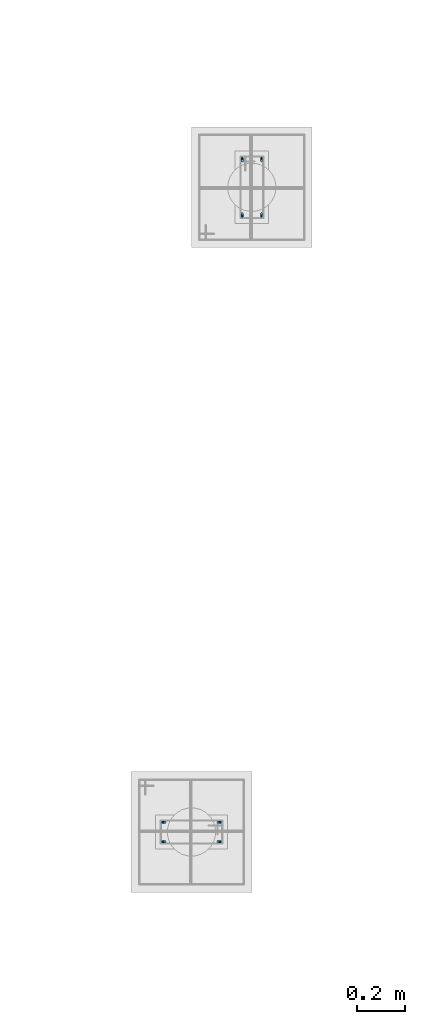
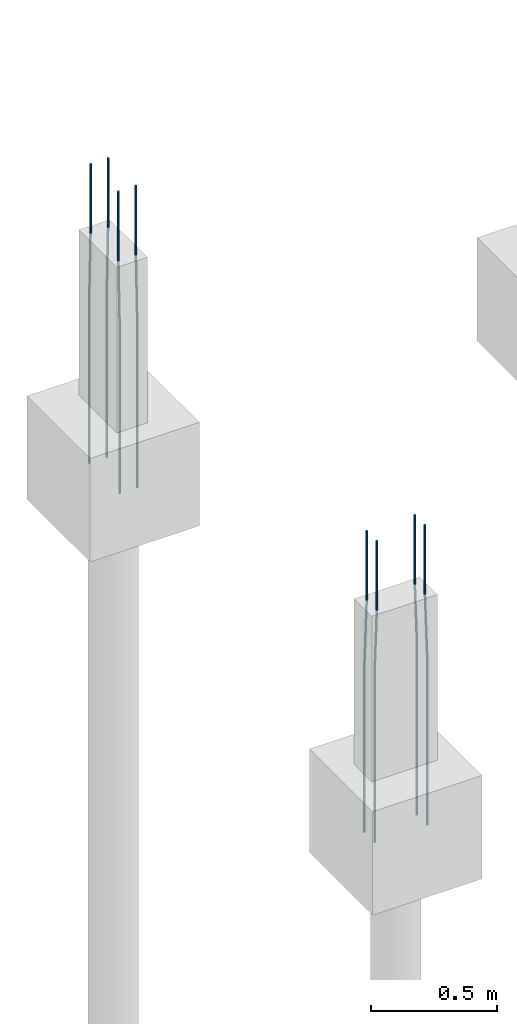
# One storey, part 56 of 119: 8 reinforcing bars.
"""IFC4 building model written with IfcOpenShell, lengths in centimetres."""

import ifcopenshell
import ifcopenshell.guid

model = None  # the IFC model being written
_history = None  # IfcOwnerHistory: only IFC2X3 demands one
_inside = {}  # id of a spatial element -> (the spatial element, [elements in it])
_under = {}  # id of a project, library or spatial element -> (it, [spatial elements below it])
_declared = {}  # id of a project -> (the project, [libraries it declares])
_typed = {}  # id of a type object -> (the type object, [elements of that type])
_made_of = {}  # id of a material, layer set ... -> (it, [elements and type objects made of it])


def new_model(schema):
    """Start an empty IFC model of exactly this schema.

    Asked for "IFC4X3", IfcOpenShell would pick the latest addendum, in which some entities
    have other attributes; the version numbers below select the first issue.
    IFC2X3 requires an IfcOwnerHistory on every rooted entity: one is made here for all.
    """
    global model, _history
    if schema == "IFC4X3":
        model = ifcopenshell.file(schema_version=(4, 3, 0, 0))
    else:
        model = ifcopenshell.file(schema=schema)
    _inside.clear()
    _under.clear()
    _declared.clear()
    _typed.clear()
    _made_of.clear()
    _history = None
    if model.schema == "IFC2X3":
        org = make("IfcOrganization", Name="unknown")
        user = make(
            "IfcPersonAndOrganization",
            ThePerson=make("IfcPerson", FamilyName="unknown"),
            TheOrganization=org,
        )
        app = make(
            "IfcApplication",
            ApplicationDeveloper=org,
            Version="unknown",
            ApplicationFullName="unknown",
            ApplicationIdentifier="unknown",
        )
        _history = make(
            "IfcOwnerHistory",
            OwningUser=user,
            OwningApplication=app,
            ChangeAction="ADDED",
            CreationDate=0,
        )
    return model


def make(cls, **values):
    """One entity of the class cls with the attributes given. An attribute that is None is left unset."""
    return model.create_entity(
        cls, **{name: value for name, value in values.items() if value is not None}
    )


def entity(cls, *values):
    """Any entity or typed value of the class cls, its attributes in the order of the schema. None: left unset."""
    e = model.create_entity(cls)
    for i, value in enumerate(values):
        if value is not None:
            e[i] = value
    return e


def rooted(cls, **values):
    """An entity with a GlobalId (a new one), such as an element, a storey or a relation."""
    return make(cls, GlobalId=ifcopenshell.guid.new(), OwnerHistory=_history, **values)


def si_unit(unit_type, name, prefix=None):
    """IfcSIUnit, for example si_unit("LENGTHUNIT", "METRE", prefix="MILLI")."""
    return make("IfcSIUnit", UnitType=unit_type, Prefix=prefix, Name=name)


def derived_unit(unit_type, elements):
    """IfcDerivedUnit: a product of units, each with its exponent."""
    return make(
        "IfcDerivedUnit",
        Elements=[
            make("IfcDerivedUnitElement", Unit=unit, Exponent=power)
            for unit, power in elements
        ],
        UnitType=unit_type,
    )


def assignment(units):
    """IfcUnitAssignment: the units of a project."""
    return None if units is None else make("IfcUnitAssignment", Units=units)


def point(xyz):
    """IfcCartesianPoint."""
    return None if xyz is None else make("IfcCartesianPoint", Coordinates=xyz)


def direction(xyz):
    """IfcDirection."""
    return None if xyz is None else make("IfcDirection", DirectionRatios=xyz)


def frame(location, z_axis=None, x_axis=None):
    """IfcAxis2Placement3D, a coordinate frame: its origin and axes. An axis left out is left unset."""
    return make(
        "IfcAxis2Placement3D",
        Location=point(location),
        Axis=direction(z_axis),
        RefDirection=direction(x_axis),
    )


def origin_with_axes():
    """The frame at (0, 0, 0) with the z axis (0, 0, 1) and the x axis (1, 0, 0) written out."""
    return frame((0.0, 0.0, 0.0), z_axis=(0.0, 0.0, 1.0), x_axis=(1.0, 0.0, 0.0))


def place(relative_to, where):
    """IfcLocalPlacement: puts the frame where relative to a parent placement (None: the world)."""
    return make(
        "IfcLocalPlacement", PlacementRelTo=relative_to, RelativePlacement=where
    )


def context(
    kind, dimensions, precision=None, world=None, true_north=None, identifier=None
):
    """IfcGeometricRepresentationContext, for example the 3D "Model" context."""
    return make(
        "IfcGeometricRepresentationContext",
        ContextIdentifier=identifier,
        ContextType=kind,
        CoordinateSpaceDimension=dimensions,
        Precision=precision,
        WorldCoordinateSystem=world,
        TrueNorth=true_north,
    )


def project(units=None, contexts=None):
    """IfcProject with its units and contexts."""
    return rooted(
        "IfcProject",
        Name="project",
        RepresentationContexts=contexts,
        UnitsInContext=assignment(units),
    )


def spatial(cls, under=None, at=None, **own):
    """A site, building, storey or space (cls), placed at a placement, below another one or the project."""
    s = rooted(cls, ObjectPlacement=at, **own)
    if under is not None:
        _under.setdefault(under.id(), (under, []))[1].append(s)
    return s


def shape(context_of_items, identifier, shape_type, items):
    """IfcShapeRepresentation: the items that make up one representation, for example the "Body"."""
    return make(
        "IfcShapeRepresentation",
        ContextOfItems=context_of_items,
        RepresentationIdentifier=identifier,
        RepresentationType=shape_type,
        Items=items,
    )


def made_of(thing, what):
    """Note that an element or type object is made of a material, layer set ...; save() writes the relation."""
    if what is not None:
        _made_of.setdefault(what.id(), (what, []))[1].append(thing)
    return thing


def element(
    cls,
    number,
    at=None,
    inside=None,
    cuts=None,
    type_object=None,
    material=None,
    context=None,
    identifier="Body",
    shape_type=None,
    held_by="IfcProductDefinitionShape",
    body=None,
    shapes=None,
    **own,
):
    """One element of the class cls, such as IfcWall. Its Tag is "e" and its number.

    at: its placement. inside: the storey or other place that contains it. cuts: it is an
    opening in that element (IfcRelVoidsElement). A single representation is given by context,
    identifier, shape_type and body (its items); several are given by shapes. held_by: the class
    of the entity that holds the representations. save() writes the other relations.
    """
    e = rooted(cls, Tag="e%d" % number, ObjectPlacement=at, **own)
    if body is not None:
        shapes = [shape(context, identifier, shape_type, body)]
    if shapes is not None:
        e.Representation = make(held_by, Representations=shapes)
    if inside is not None:
        _inside.setdefault(inside.id(), (inside, []))[1].append(e)
    if cuts is not None:
        rooted(
            "IfcRelVoidsElement", RelatingBuildingElement=cuts, RelatedOpeningElement=e
        )
    if type_object is not None:
        _typed.setdefault(type_object.id(), (type_object, []))[1].append(e)
    return made_of(e, material)


def aggregate(whole, parts):
    """IfcRelAggregates: a whole, such as a stair, and the parts it consists of."""
    return rooted("IfcRelAggregates", RelatingObject=whole, RelatedObjects=parts)


def save(model, path):
    """Write the relations noted so far, then the file.

    IfcRelAggregates (storeys below a building ...), IfcRelContainedInSpatialStructure (elements
    in a storey), IfcRelDefinesByType, IfcRelAssociatesMaterial and IfcRelDeclares: one each for
    every whole, place, type object, material and project.
    """
    for whole, parts in _under.values():
        aggregate(whole, parts)
    for where, things in _inside.values():
        rooted(
            "IfcRelContainedInSpatialStructure",
            RelatedElements=things,
            RelatingStructure=where,
        )
    for kind, things in _typed.values():
        rooted("IfcRelDefinesByType", RelatedObjects=things, RelatingType=kind)
    for what, things in _made_of.values():
        rooted("IfcRelAssociatesMaterial", RelatedObjects=things, RelatingMaterial=what)
    for by, libraries in _declared.values():
        rooted("IfcRelDeclares", RelatingContext=by, RelatedDefinitions=libraries)
    model.write(path)


model = new_model("IFC4")

# Units and contexts
model_context = context("Model", 3, precision=1e-05, world=origin_with_axes(), identifier="Body")
ifc_project = project(units=[si_unit("LENGTHUNIT", "METRE", prefix="CENTI"), si_unit("VOLUMEUNIT", "CUBIC_METRE"), si_unit("AREAUNIT", "SQUARE_METRE"), si_unit("POWERUNIT", "WATT"), si_unit("LUMINOUSFLUXUNIT", "LUMEN"), si_unit("ELECTRICCURRENTUNIT", "AMPERE"), si_unit("PRESSUREUNIT", "PASCAL", prefix="KILO"), si_unit("MASSUNIT", "GRAM", prefix="KILO"), si_unit("PLANEANGLEUNIT", "RADIAN"), derived_unit("VOLUMETRICFLOWRATEUNIT", [(si_unit("LENGTHUNIT", "METRE"), 3), (si_unit("TIMEUNIT", "SECOND"), -1)])], contexts=[model_context])

# Site, building, storey
site_placement = place(None, frame((-4000.0, 0.0, 0.0), z_axis=(0.0, 0.0, 1.0), x_axis=(1.0, 0.0, 0.0)))
site = spatial("IfcSite", under=ifc_project, at=site_placement, Name="PADRÃO")
building_placement = place(site_placement, frame((0.0, 0.0, -14.0)))
building = spatial("IfcBuilding", under=site, at=building_placement, Name="CRECHE PRÉ-ESCOLA TIPO 2")
storey_placement = place(building_placement, origin_with_axes())
storey = spatial("IfcBuildingStorey", under=building, at=storey_placement, Name="FUNDAÇÃO", CompositionType="ELEMENT", Elevation=-14.0)

# Reinforcing bars
for number, where, z_axis, x_axis, name in (
    (1, (3159.5, 3476.08, 33.3573001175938), (0.0, 0.0, 1.0), (1.0, 0.0, 0.0), "P44 - Longitudinal"),
    (2, (3167.5, 3476.08, 33.3573001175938), (0.0, 0.0, 1.0), (1.0, 0.0, 0.0), "P44 - Longitudinal"),
):
    element("IfcReinforcingBar", number, at=place(storey_placement, frame(where, z_axis=z_axis, x_axis=x_axis)), inside=storey, Name=name, BarLength=0.0, CrossSectionArea=7.853981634e-05, NominalDiameter=1.0, PredefinedType="MAIN", context=model_context, shape_type="AdvancedSweptSolid", body=[
        entity("IfcSweptDiskSolid", entity("IfcCompositeCurve", [entity("IfcCompositeCurveSegment", "CONTINUOUS", True, entity("IfcPolyline", [entity("IfcCartesianPoint", [0.0, 0.5, -145.357300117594]), entity("IfcCartesianPoint", [0.0, 0.5, -63.3573001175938])])), entity("IfcCompositeCurveSegment", "CONTINUOUS", True, entity("IfcPolyline", [entity("IfcCartesianPoint", [0.0, 0.5, -63.3573001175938]), entity("IfcCartesianPoint", [0.0, -0.5, -33.3573001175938])])), entity("IfcCompositeCurveSegment", "CONTINUOUS", True, entity("IfcPolyline", [entity("IfcCartesianPoint", [0.0, -0.5, -33.3573001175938]), entity("IfcCartesianPoint", [0.0, -0.5, 0.0])]))], False), 0.5),
    ])
for number, where, z_axis, x_axis, name in (
    (3, (3159.5, 3453.08, 33.3573001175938), (0.0, 0.0, 1.0), (1.0, 0.0, 0.0), "P44 - Longitudinal"),
    (4, (3167.5, 3453.08, 33.3573001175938), (0.0, 0.0, 1.0), (1.0, 0.0, 0.0), "P44 - Longitudinal"),
):
    element("IfcReinforcingBar", number, at=place(storey_placement, frame(where, z_axis=z_axis, x_axis=x_axis)), inside=storey, Name=name, BarLength=0.0, CrossSectionArea=7.853981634e-05, NominalDiameter=1.0, PredefinedType="MAIN", context=model_context, shape_type="AdvancedSweptSolid", body=[
        entity("IfcSweptDiskSolid", entity("IfcCompositeCurve", [entity("IfcCompositeCurveSegment", "CONTINUOUS", True, entity("IfcPolyline", [entity("IfcCartesianPoint", [0.0, -0.5, -145.357300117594]), entity("IfcCartesianPoint", [0.0, -0.5, -63.3573001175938])])), entity("IfcCompositeCurveSegment", "CONTINUOUS", True, entity("IfcPolyline", [entity("IfcCartesianPoint", [0.0, -0.5, -63.3573001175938]), entity("IfcCartesianPoint", [0.0, 0.5, -33.3573001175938])])), entity("IfcCompositeCurveSegment", "CONTINUOUS", True, entity("IfcPolyline", [entity("IfcCartesianPoint", [0.0, 0.5, -33.3573001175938]), entity("IfcCartesianPoint", [0.0, 0.5, 0.0])]))], False), 0.5),
    ])
reinforcing_bar_1_placement = place(storey_placement, frame((3127.0, 3193.52, 33.3573001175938), z_axis=(0.0, 0.0, 1.0), x_axis=(1.0, 0.0, 0.0)))
element("IfcReinforcingBar", 5, at=reinforcing_bar_1_placement, inside=storey, Name="P55 - Longitudinal", BarLength=0.0, CrossSectionArea=7.853981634e-05, NominalDiameter=1.0, PredefinedType="MAIN", context=model_context, shape_type="AdvancedSweptSolid", body=[
    entity("IfcSweptDiskSolid", entity("IfcCompositeCurve", [entity("IfcCompositeCurveSegment", "CONTINUOUS", True, entity("IfcPolyline", [entity("IfcCartesianPoint", [-0.5, 0.0, -145.357300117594]), entity("IfcCartesianPoint", [-0.5, 0.0, -63.3573001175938])])), entity("IfcCompositeCurveSegment", "CONTINUOUS", True, entity("IfcPolyline", [entity("IfcCartesianPoint", [-0.5, 0.0, -63.3573001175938]), entity("IfcCartesianPoint", [0.5, 0.0, -33.3573001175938])])), entity("IfcCompositeCurveSegment", "CONTINUOUS", True, entity("IfcPolyline", [entity("IfcCartesianPoint", [0.5, 0.0, -33.3573001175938]), entity("IfcCartesianPoint", [0.5, 0.0, 0.0])]))], False), 0.5),
])
reinforcing_bar_2_placement = place(storey_placement, frame((3150.0, 3201.52, 33.3573001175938), z_axis=(0.0, 0.0, 1.0), x_axis=(1.0, 0.0, 0.0)))
element("IfcReinforcingBar", 6, at=reinforcing_bar_2_placement, inside=storey, Name="P55 - Longitudinal", BarLength=0.0, CrossSectionArea=7.853981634e-05, NominalDiameter=1.0, PredefinedType="MAIN", context=model_context, shape_type="AdvancedSweptSolid", body=[
    entity("IfcSweptDiskSolid", entity("IfcCompositeCurve", [entity("IfcCompositeCurveSegment", "CONTINUOUS", True, entity("IfcPolyline", [entity("IfcCartesianPoint", [0.5, 0.0, -145.357300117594]), entity("IfcCartesianPoint", [0.5, 0.0, -63.3573001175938])])), entity("IfcCompositeCurveSegment", "CONTINUOUS", True, entity("IfcPolyline", [entity("IfcCartesianPoint", [0.5, 0.0, -63.3573001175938]), entity("IfcCartesianPoint", [-0.5, 0.0, -33.3573001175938])])), entity("IfcCompositeCurveSegment", "CONTINUOUS", True, entity("IfcPolyline", [entity("IfcCartesianPoint", [-0.5, 0.0, -33.3573001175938]), entity("IfcCartesianPoint", [-0.5, 0.0, 0.0])]))], False), 0.5),
])
reinforcing_bar_3_placement = place(storey_placement, frame((3127.0, 3201.52, 33.3573001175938), z_axis=(0.0, 0.0, 1.0), x_axis=(1.0, 0.0, 0.0)))
element("IfcReinforcingBar", 7, at=reinforcing_bar_3_placement, inside=storey, Name="P55 - Longitudinal", BarLength=0.0, CrossSectionArea=7.853981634e-05, NominalDiameter=1.0, PredefinedType="MAIN", context=model_context, shape_type="AdvancedSweptSolid", body=[
    entity("IfcSweptDiskSolid", entity("IfcCompositeCurve", [entity("IfcCompositeCurveSegment", "CONTINUOUS", True, entity("IfcPolyline", [entity("IfcCartesianPoint", [-0.5, 0.0, -145.357300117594]), entity("IfcCartesianPoint", [-0.5, 0.0, -63.3573001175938])])), entity("IfcCompositeCurveSegment", "CONTINUOUS", True, entity("IfcPolyline", [entity("IfcCartesianPoint", [-0.5, 0.0, -63.3573001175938]), entity("IfcCartesianPoint", [0.5, 0.0, -33.3573001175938])])), entity("IfcCompositeCurveSegment", "CONTINUOUS", True, entity("IfcPolyline", [entity("IfcCartesianPoint", [0.5, 0.0, -33.3573001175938]), entity("IfcCartesianPoint", [0.5, 0.0, 0.0])]))], False), 0.5),
])
reinforcing_bar_4_placement = place(storey_placement, frame((3150.0, 3193.52, 33.3573001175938), z_axis=(0.0, 0.0, 1.0), x_axis=(1.0, 0.0, 0.0)))
element("IfcReinforcingBar", 8, at=reinforcing_bar_4_placement, inside=storey, Name="P55 - Longitudinal", BarLength=0.0, CrossSectionArea=7.853981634e-05, NominalDiameter=1.0, PredefinedType="MAIN", context=model_context, shape_type="AdvancedSweptSolid", body=[
    entity("IfcSweptDiskSolid", entity("IfcCompositeCurve", [entity("IfcCompositeCurveSegment", "CONTINUOUS", True, entity("IfcPolyline", [entity("IfcCartesianPoint", [0.5, 0.0, -145.357300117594]), entity("IfcCartesianPoint", [0.5, 0.0, -63.3573001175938])])), entity("IfcCompositeCurveSegment", "CONTINUOUS", True, entity("IfcPolyline", [entity("IfcCartesianPoint", [0.5, 0.0, -63.3573001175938]), entity("IfcCartesianPoint", [-0.5, 0.0, -33.3573001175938])])), entity("IfcCompositeCurveSegment", "CONTINUOUS", True, entity("IfcPolyline", [entity("IfcCartesianPoint", [-0.5, 0.0, -33.3573001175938]), entity("IfcCartesianPoint", [-0.5, 0.0, 0.0])]))], False), 0.5),
])

save(model, "model.ifc")
